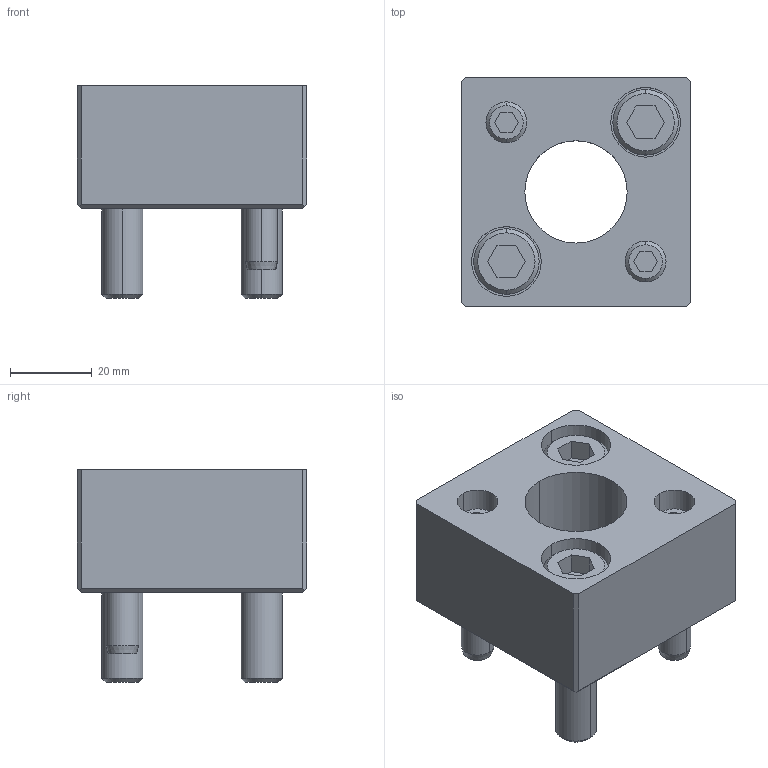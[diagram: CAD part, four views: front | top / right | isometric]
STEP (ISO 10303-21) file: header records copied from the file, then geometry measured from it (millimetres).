
FILE_DESCRIPTION(/* description */ (''),/* implementation_level */ '2;1');
FILE_NAME(/* name */ '3d_mpsr25_04608_r00.stp',/* time_stamp */ '2011-01-10T14:13:28+09:00',/* author */ ('MISUMI'),/* organization */ (''),/* preprocessor_version */ 'ST-DEVELOPER v11',/* originating_system */ 'UGS - NX 5.0',/* authorisation */ '');
FILE_SCHEMA (('CONFIG_CONTROL_DESIGN'));
Length unit declared in the file: millimetre
Products named in the file (1): 3d_mpsr25_04608_r00
Bounding box: 56 x 56 x 52 mm (x, y, z)
Volume: 79237.7 mm3; surface area: 25348.1 mm2
Topology: 7 solids, 7 shells, 139 faces, 306 edges, 196 vertices
Faces by surface type: plane 67, cylinder 46, cone 26
Entity records: 3950 total; most frequent: DIRECTION 698, CARTESIAN_POINT 684, ORIENTED_EDGE 612, EDGE_CURVE 306, AXIS2_PLACEMENT_3D 258, VERTEX_POINT 196, LINE 182, VECTOR 182
